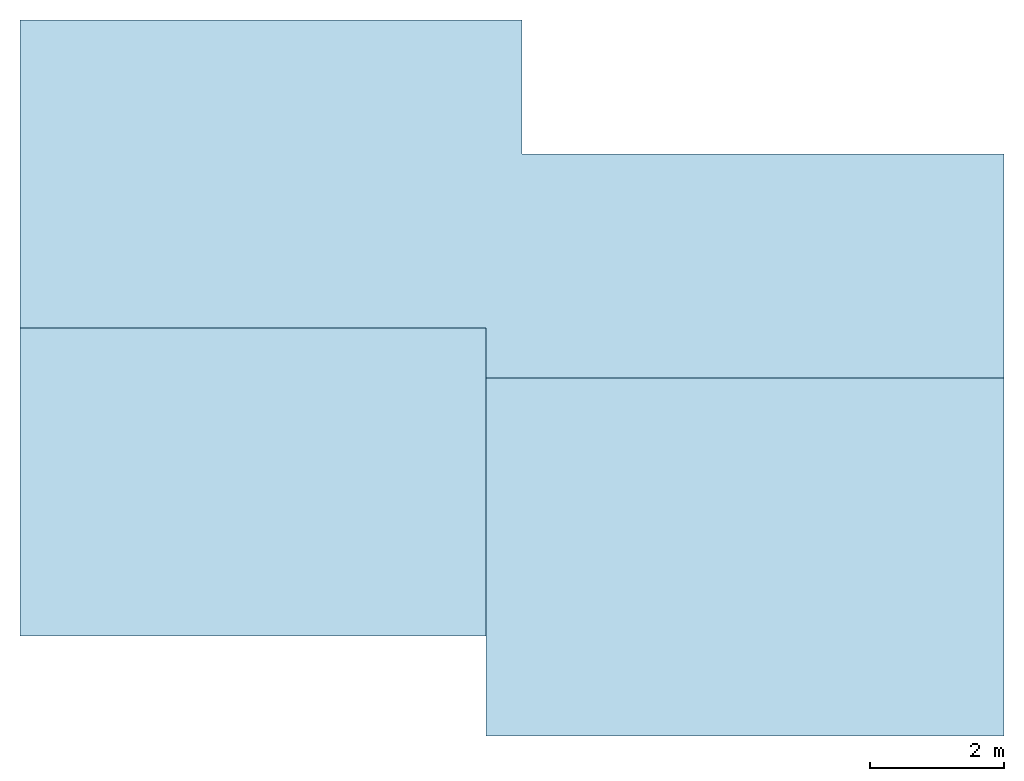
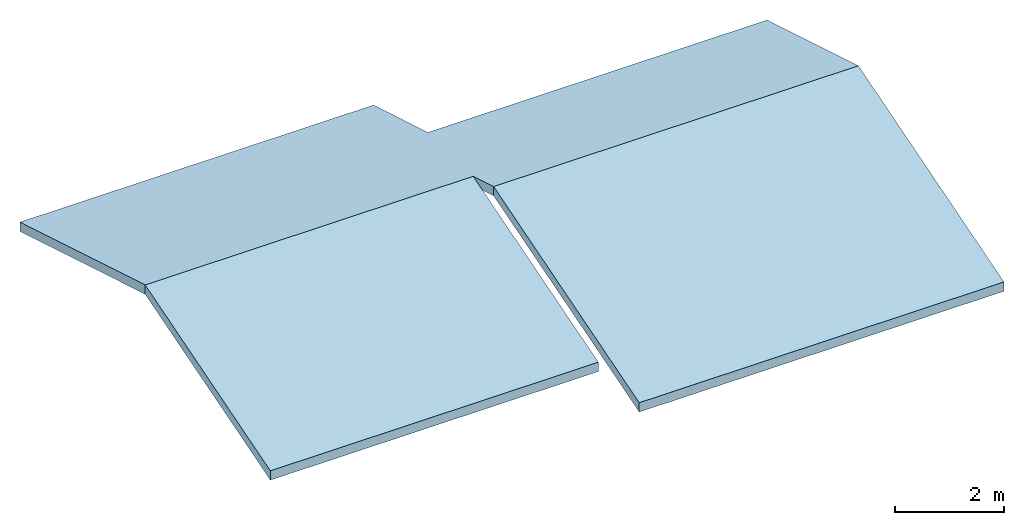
# One storey: 3 slabs, 1 element without a shape of its own.
"""IFC2X3 building model written with IfcOpenShell, lengths in metres."""

from ifc_helpers import new_model, entity, si_unit, converted_unit, derived_unit, direction, frame, frame_2d, origin, place, context, subcontext, project, spatial, polyline, rectangle, outline, extrude, type_object, element, aggregate, save


model = new_model("IFC2X3")

# Units and contexts
model_context = context("Model", 3, precision=1e-05, world=origin(), true_north=direction((6.12303176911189e-17, 1.0)))
body_context = subcontext(model_context, "Body", "Model", "MODEL_VIEW")
ifc_project = project(units=[si_unit("LENGTHUNIT", "METRE"), si_unit("AREAUNIT", "SQUARE_METRE"), si_unit("VOLUMEUNIT", "CUBIC_METRE"), converted_unit("PLANEANGLEUNIT", "DEGREE", entity("IfcRatioMeasure", 0.0174532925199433), si_unit("PLANEANGLEUNIT", "RADIAN"), dimensions=[0, 0, 0, 0, 0, 0, 0]), si_unit("MASSUNIT", "GRAM", prefix="KILO"), derived_unit("MASSDENSITYUNIT", [(si_unit("MASSUNIT", "GRAM", prefix="KILO"), 1), (si_unit("LENGTHUNIT", "METRE"), -3)]), derived_unit("MOMENTOFINERTIAUNIT", [(si_unit("LENGTHUNIT", "METRE"), 4)]), si_unit("TIMEUNIT", "SECOND"), si_unit("FREQUENCYUNIT", "HERTZ"), si_unit("THERMODYNAMICTEMPERATUREUNIT", "DEGREE_CELSIUS"), derived_unit("THERMALTRANSMITTANCEUNIT", [(si_unit("MASSUNIT", "GRAM", prefix="KILO"), 1), (si_unit("THERMODYNAMICTEMPERATUREUNIT", "KELVIN"), -1), (si_unit("TIMEUNIT", "SECOND"), -3)]), derived_unit("VOLUMETRICFLOWRATEUNIT", [(si_unit("LENGTHUNIT", "METRE"), 3), (si_unit("TIMEUNIT", "SECOND"), -1)]), si_unit("ELECTRICCURRENTUNIT", "AMPERE"), si_unit("ELECTRICVOLTAGEUNIT", "VOLT"), si_unit("POWERUNIT", "WATT"), si_unit("FORCEUNIT", "NEWTON", prefix="KILO"), si_unit("ILLUMINANCEUNIT", "LUX"), si_unit("LUMINOUSFLUXUNIT", "LUMEN"), si_unit("LUMINOUSINTENSITYUNIT", "CANDELA"), derived_unit("USERDEFINED", [(si_unit("MASSUNIT", "GRAM", prefix="KILO"), -1), (si_unit("LENGTHUNIT", "METRE"), -2), (si_unit("TIMEUNIT", "SECOND"), 3), (si_unit("LUMINOUSFLUXUNIT", "LUMEN"), 1)]), derived_unit("LINEARVELOCITYUNIT", [(si_unit("LENGTHUNIT", "METRE"), 1), (si_unit("TIMEUNIT", "SECOND"), -1)]), si_unit("PRESSUREUNIT", "PASCAL"), derived_unit("USERDEFINED", [(si_unit("LENGTHUNIT", "METRE"), -2), (si_unit("MASSUNIT", "GRAM", prefix="KILO"), 1), (si_unit("TIMEUNIT", "SECOND"), -2)]), derived_unit("LINEARFORCEUNIT", [(si_unit("MASSUNIT", "GRAM", prefix="KILO"), 1), (si_unit("LENGTHUNIT", "METRE"), 1), (si_unit("TIMEUNIT", "SECOND"), -2), (si_unit("LENGTHUNIT", "METRE"), -1)]), derived_unit("PLANARFORCEUNIT", [(si_unit("MASSUNIT", "GRAM", prefix="KILO"), 1), (si_unit("LENGTHUNIT", "METRE"), 1), (si_unit("TIMEUNIT", "SECOND"), -2), (si_unit("LENGTHUNIT", "METRE"), -2)])], contexts=[model_context])

# Site, building, storey
site_placement = place(None, origin())
site = spatial("IfcSite", under=ifc_project, at=site_placement, Name="Surface", CompositionType="ELEMENT")
building_placement = place(site_placement, origin())
building = spatial("IfcBuilding", under=site, at=building_placement, CompositionType="ELEMENT")
storey_placement = place(building_placement, frame((0.0, 0.0, 2.75)))
storey = spatial("IfcBuildingStorey", under=building, at=storey_placement, Name="ARASE 1", CompositionType="ELEMENT", Elevation=2.75)

# Roof, slabs
roof_placement = place(storey_placement, frame((-18.3082926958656, -1.41262022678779, -0.0899999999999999)))
roof = element("IfcRoof", 1, at=roof_placement, inside=storey, Name="Toit de base:Toit - 200 mm", ObjectType="Toit de base:Toit - 200 mm", ShapeType="NOTDEFINED")
slab_type_1 = type_object("IfcSlabType", Name="Toit de base:Toit - 200 mm", PredefinedType="ROOF")
slab_1_placement = place(roof_placement, origin())
slab_1 = element("IfcSlab", 2, at=slab_1_placement, type_object=slab_type_1, Name="Toit de base:Toit - 200 mm", ObjectType="Toit de base:Toit - 200 mm", PredefinedType="NOTDEFINED", context=body_context, shape_type="SweptSolid", body=[
    extrude(outline(polyline([(0.149999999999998, 2.79278199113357), (-7.35, 2.79278199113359), (-7.35000000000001, -2.00975900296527), (-0.390000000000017, -2.00975900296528), (-0.390000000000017, -2.37309233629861), (-0.390000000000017, -2.79278199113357), (7.35, -2.79278199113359), (7.35, 0.70472068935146), (0.149999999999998, 0.704720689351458), (0.149999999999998, 2.79278199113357)])), frame((7.35000000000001, 8.025, 0.802499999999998), z_axis=(0.0, 0.287347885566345, 0.957826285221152), x_axis=(1.0, 0.0, 0.0)), (0.0, -0.287347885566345, 0.957826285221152), 0.208806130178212),
])
slab_type_2 = type_object("IfcSlabType", Name="Toit de base:Toit - 200 mm", PredefinedType="ROOF")
slab_2_placement = place(roof_placement, origin())
slab_2 = element("IfcSlab", 3, at=slab_2_placement, type_object=slab_type_2, Name="Toit de base:Toit - 200 mm", ObjectType="Toit de base:Toit - 200 mm", PredefinedType="NOTDEFINED", context=body_context, shape_type="SweptSolid", body=[
    extrude(rectangle(XDim=7.74000000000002, YDim=5.58556398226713, at=frame_2d((0.0, -1.11022302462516e-15), x_axis=(1.0, 0.0))), frame((10.83, 2.67500000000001, 0.802499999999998), z_axis=(0.0, -0.287347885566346, 0.957826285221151), x_axis=(1.0, 0.0, 0.0)), (0.0, 0.287347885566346, 0.957826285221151), 0.208806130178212),
])
slab_type_3 = type_object("IfcSlabType", Name="Toit de base:Toit - 200 mm", PredefinedType="ROOF")
slab_3_placement = place(roof_placement, origin())
slab_3 = element("IfcSlab", 4, at=slab_3_placement, type_object=slab_type_3, Name="Toit de base:Toit - 200 mm", ObjectType="Toit de base:Toit - 200 mm", PredefinedType="NOTDEFINED", context=body_context, shape_type="SweptSolid", body=[
    extrude(rectangle(XDim=4.80254099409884, YDim=6.95999999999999, at=frame_2d((3.33066907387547e-15, 2.22044604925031e-16), x_axis=(0.0, 1.0))), frame((3.48, 3.80000000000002, 0.689999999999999), z_axis=(0.0, -0.287347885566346, 0.957826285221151), x_axis=(1.0, 0.0, 0.0)), (0.0, 0.287347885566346, 0.957826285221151), 0.208806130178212),
])
aggregate(roof, [slab_1, slab_2, slab_3])

save(model, "model.ifc")
